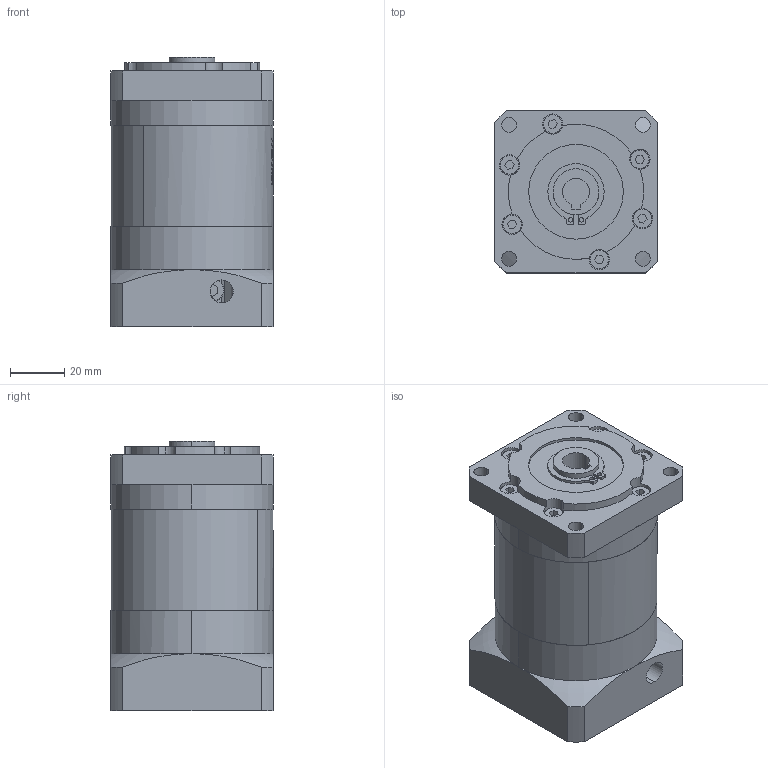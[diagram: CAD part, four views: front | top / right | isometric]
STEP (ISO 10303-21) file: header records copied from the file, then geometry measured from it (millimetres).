
FILE_DESCRIPTION (( 'STEP AP203' ), '1' );
FILE_NAME ('PBF060-L2-8-38.1-66.7.STEP', '2022-07-21T08:51:41', ( 'Windows User' ), ( 'P R C' ), 'SwSTEP 2.0', 'SolidWorks 2016', '' );
FILE_SCHEMA (( 'CONFIG_CONTROL_DESIGN' ));
Length unit declared in the file: millimetre
Products named in the file (7): PBF060 上蓋版-孔10输出_D1-70 D2-5.5 D3-14 D4-17 D5-50 L1-30 L2-35 L3-3 A1-60 S1-3 S2-20 S3-5 S4-18 B-5 H-16 C-M5 标准; PBF060 狟屳唳-8_D6-60 D7-14 梓袧; PBF060-窣諉啣-38.1-M4-66.7_1; GB／T276-94深沟球轴承61905-2RZ; PBF060-L2-8-38.1-66.7; 囀鞠褒蹟佪 M5℅16; PBF060 內齿圈_二级内齿圈
Assembly tree (6 placements, depth 2):
  PBF060-L2-8-38.1-66.7
    囀鞠褒蹟佪 M5℅16
    PBF060 內齿圈_二级内齿圈
    PBF060 上蓋版-孔10输出_D1-70 D2-5.5 D3-14 D4-17 D5-50 L1-30 L2-35 L3-3 A1-60 S1-3 S2-20 S3-5 S4-18 B-5 H-16 C-M5 标准
    PBF060 狟屳唳-8_D6-60 D7-14 梓袧
    PBF060-窣諉啣-38.1-M4-66.7_1
    GB／T276-94深沟球轴承61905-2RZ
Bounding box: 60 x 60 x 99.5 mm (x, y, z)
Volume: 263419 mm3; surface area: 68615.2 mm2
Topology: 6 solids, 6 shells, 1096 faces, 3011 edges, 1989 vertices
Faces by surface type: plane 544, bspline 194, cylinder 183, sphere 91, torus 70, cone 14
Entity records: 46585 total; most frequent: CARTESIAN_POINT 19500, ORIENTED_EDGE 5928, DIRECTION 4775, EDGE_CURVE 2964, VERTEX_POINT 1963, AXIS2_PLACEMENT_3D 1681, VECTOR 1413, LINE 1413
